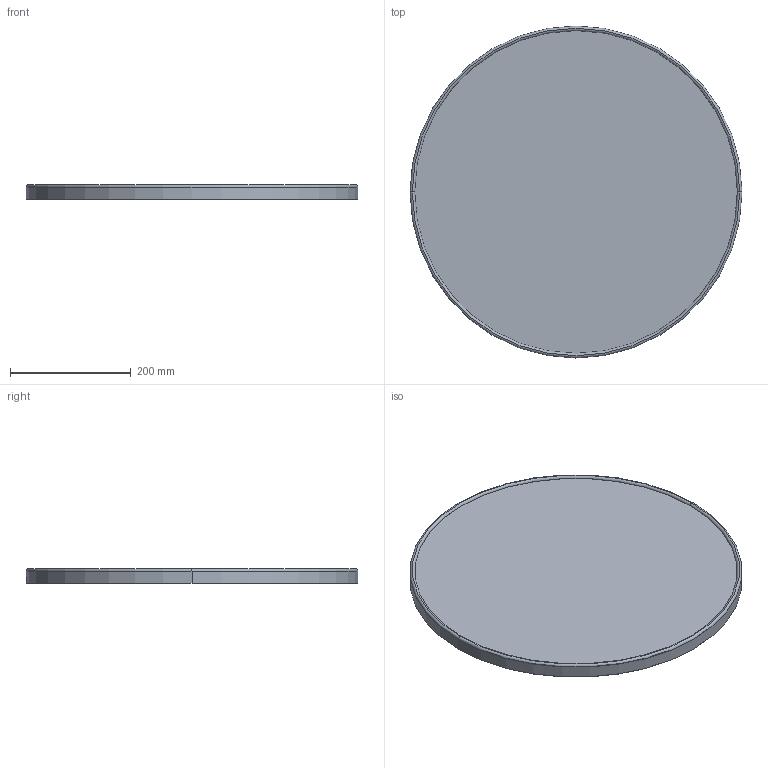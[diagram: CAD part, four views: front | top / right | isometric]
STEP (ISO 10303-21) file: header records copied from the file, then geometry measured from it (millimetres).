
FILE_DESCRIPTION (( 'STEP AP203' ), '1' );
FILE_NAME ('Circular Mirror-Assemblies.STEP', '2023-08-24T06:00:45', ( '' ), ( '' ), 'SwSTEP 2.0', 'SolidWorks 2017', '' );
FILE_SCHEMA (( 'CONFIG_CONTROL_DESIGN' ));
Length unit declared in the file: millimetre
Products named in the file (3): Circular Mirror-Assemblies; Circular Mirror Glass; Circular frame
Assembly tree (2 placements, depth 2):
  Circular Mirror-Assemblies
    Circular frame
    Circular Mirror Glass
Bounding box: 550 x 550 x 24 mm (x, y, z)
Volume: 1206889.8 mm3; surface area: 562328.4 mm2
Topology: 2 solids, 2 shells, 30 faces, 72 edges, 46 vertices
Faces by surface type: plane 14, cylinder 12, torus 4
Entity records: 1199 total; most frequent: DIRECTION 176, CARTESIAN_POINT 153, ORIENTED_EDGE 144, EDGE_CURVE 72, AXIS2_PLACEMENT_3D 69, VERTEX_POINT 46, LINE 38, VECTOR 38
